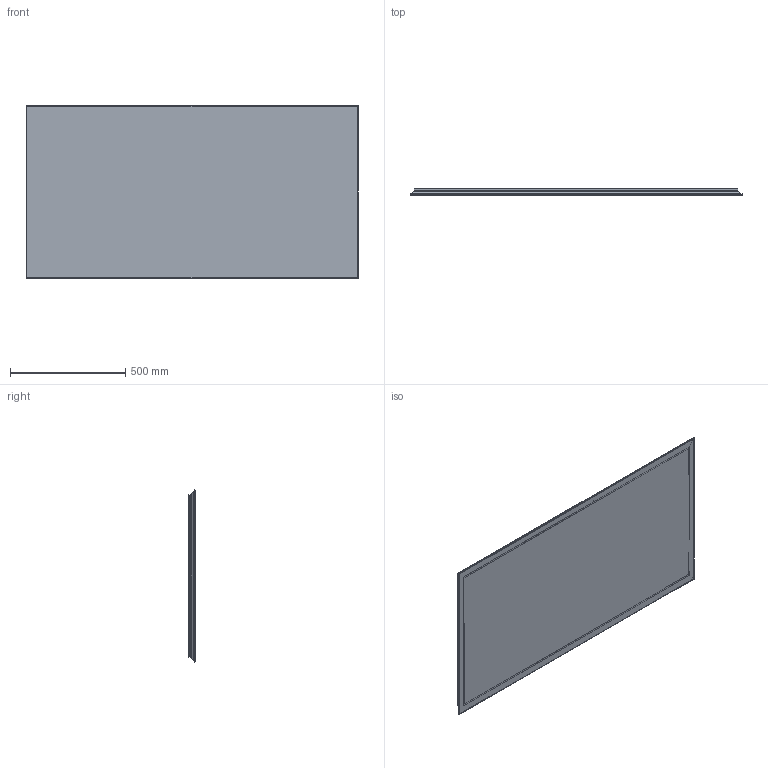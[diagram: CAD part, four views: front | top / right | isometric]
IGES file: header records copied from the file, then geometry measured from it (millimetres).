
Start section: Data from Parasolid IGES Translator 22.0.50, Copyright(c) 2006 Siemens P LM Software. All Rights Reserved.
Global section: file name: noorth-mirror-H 75 D 2,8 W 144_1436.igs; native system: By Siemens PLM Incorporated; preprocessor: XPlus GENERIC/IGES 22.0.50; author: Noname; organization: Noname; date: 20250803.161500; units: metre
Bounding box: 1440 x 28 x 750 mm (x, y, z)
Volume: 4860452.3 mm3; surface area: 3110784.1 mm2
Topology: 5 solids, 5 shells, 274 faces, 768 edges, 504 vertices
Faces by surface type: plane 258, extrusion 8, cylinder 8
